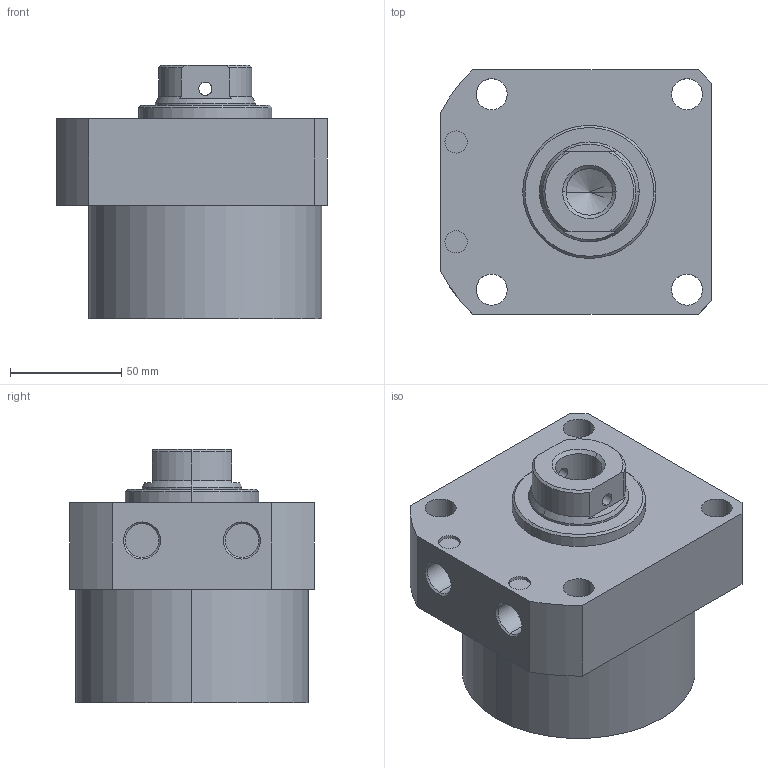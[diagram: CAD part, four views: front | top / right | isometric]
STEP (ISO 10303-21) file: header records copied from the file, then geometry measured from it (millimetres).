
FILE_DESCRIPTION (( 'STEP AP203' ), '1' );
FILE_NAME ('CLLR-105CB-030.STEP', '2019-12-19T01:40:26', ( '' ), ( '' ), 'SwSTEP 2.0', 'SolidWorks 2015', '' );
FILE_SCHEMA (( 'CONFIG_CONTROL_DESIGN' ));
Length unit declared in the file: millimetre
Products named in the file (1): CLLR-105CB-030
Bounding box: 122 x 110 x 114 mm (x, y, z)
Volume: 943687.2 mm3; surface area: 74778.2 mm2
Topology: 1 solids, 1 shells, 67 faces, 160 edges, 101 vertices
Faces by surface type: cylinder 33, plane 19, cone 15
Entity records: 2165 total; most frequent: CARTESIAN_POINT 471, DIRECTION 358, ORIENTED_EDGE 316, EDGE_CURVE 158, AXIS2_PLACEMENT_3D 144, VERTEX_POINT 101, EDGE_LOOP 87, CIRCLE 76
